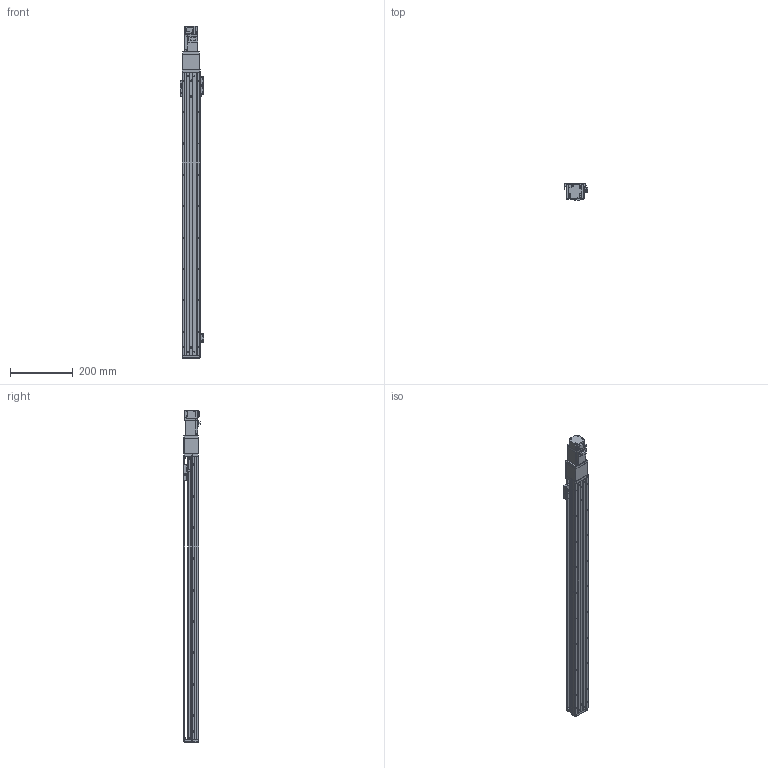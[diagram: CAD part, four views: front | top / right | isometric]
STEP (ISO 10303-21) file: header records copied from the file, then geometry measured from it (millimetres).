
FILE_DESCRIPTION (( 'STEP AP203' ), '1' );
FILE_NAME ('KTHA50-800-BC-M10-C4L.step', '2022-03-19T07:04:40', ( '微软用户' ), ( '微软中国' ), 'SwSTEP 2.0', 'SolidWorks 2020', '' );
FILE_SCHEMA (( 'CONFIG_CONTROL_DESIGN' ));
Length unit declared in the file: millimetre
Products named in the file (18): HG-KR13（三菱）; KTHA50-005; CTHA60-016; KTHA50-800-BC-M10-C4L; GB¨uT 70.2-M3¡Á6_M3¡Á6; CTHA60-021; EE_SX911P_R; GBT 70.3-M3℅6; GBT77-2000 M3×3; CTHA50-027; KTHA50-001_900; GBT 70.1-M3℅6; CTHA50-006-2_CTHA60-006-2; KTHA50-002; CTHA60-017; CTHA50-013; KTHA50-004; GBT 70.1-M4×12
Assembly tree (52 placements, depth 2):
  KTHA50-800-BC-M10-C4L
    KTHA50-001_900
    KTHA50-002
    KTHA50-004
    KTHA50-005
    GB¨uT 70.2-M3¡Á6_M3¡Á6  x6
    EE_SX911P_R  x3
    GBT77-2000 M3×3  x6
    GBT 70.1-M3℅6  x6
    CTHA60-017  x3
    GBT 70.1-M4×12  x10
    CTHA60-016  x2
    CTHA60-021  x2
    GBT 70.3-M3℅6  x6
    CTHA50-027
    CTHA50-006-2_CTHA60-006-2
    CTHA50-013
    HG-KR13（三菱）
Bounding box: 75.22 x 53.3 x 1058.6 mm (x, y, z)
Volume: 1740992.2 mm3; surface area: 440753.2 mm2
Topology: 55 solids, 55 shells, 2246 faces, 5346 edges, 3280 vertices
Faces by surface type: plane 1280, cylinder 536, cone 326, torus 88, sphere 16
Entity records: 37478 total; most frequent: CARTESIAN_POINT 6138, DIRECTION 6060, ORIENTED_EDGE 5764, EDGE_CURVE 2882, LINE 2030, VECTOR 2030, AXIS2_PLACEMENT_3D 2015, VERTEX_POINT 1813
